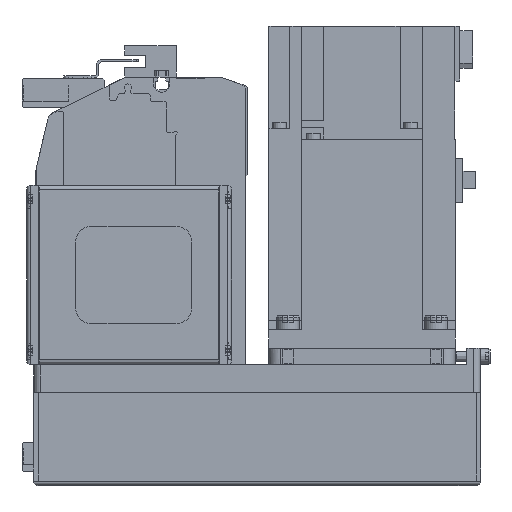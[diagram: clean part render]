
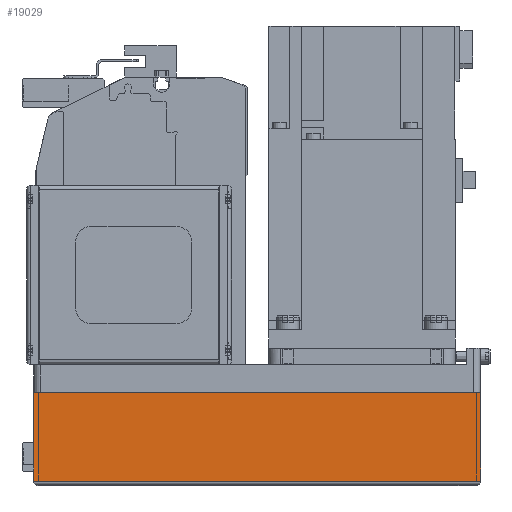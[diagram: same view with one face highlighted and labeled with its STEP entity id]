
A CAD part, left-side view. The second image highlights one B-rep face of the part: STEP entity #19029.
In plain terms, the highlighted planar face has unit normal (-1, 0, 0) as drawn and (0, 1, 0) by its records, which use the part's own axes.
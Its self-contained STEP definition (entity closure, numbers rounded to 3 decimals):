
#2946=ORIENTED_EDGE('',*,*,#7677,.F.);
#2947=ORIENTED_EDGE('',*,*,#7717,.F.);
#2948=ORIENTED_EDGE('',*,*,#7654,.T.);
#2949=ORIENTED_EDGE('',*,*,#7667,.T.);
#7654=EDGE_CURVE('',#10183,#10186,#12138,.T.);
#7667=EDGE_CURVE('',#10186,#10198,#12151,.T.);
#7677=EDGE_CURVE('',#10206,#10198,#12161,.T.);
#7717=EDGE_CURVE('',#10183,#10206,#12179,.T.);
#10183=VERTEX_POINT('',#29194);
#10186=VERTEX_POINT('',#29199);
#10198=VERTEX_POINT('',#29227);
#10206=VERTEX_POINT('',#29247);
#12138=LINE('',#29200,#13834);
#12151=LINE('',#29228,#13847);
#12161=LINE('',#29248,#13857);
#12179=LINE('',#29318,#13875);
#13834=VECTOR('',#23358,1000.);
#13847=VECTOR('',#23377,1000.);
#13857=VECTOR('',#23391,1000.);
#13875=VECTOR('',#23485,1000.);
#15387=EDGE_LOOP('',(#2946,#2947,#2948,#2949));
#16909=FACE_BOUND('',#15387,.T.);
#18264=PLANE('',#20400);
#19029=ADVANCED_FACE('',(#16909),#18264,.T.);
#20400=AXIS2_PLACEMENT_3D('',#29317,#23483,#23484);
#23358=DIRECTION('',(0.,0.,1.));
#23377=DIRECTION('',(1.,0.,0.));
#23391=DIRECTION('',(0.,0.,1.));
#23483=DIRECTION('',(0.,1.,0.));
#23484=DIRECTION('',(0.,0.,1.));
#23485=DIRECTION('',(1.,0.,0.));
#29194=CARTESIAN_POINT('',(-192.,40.,-50.));
#29199=CARTESIAN_POINT('',(-192.,40.,-12.1));
#29200=CARTESIAN_POINT('',(-192.,40.,-50.));
#29227=CARTESIAN_POINT('',(0.,40.,-12.1));
#29228=CARTESIAN_POINT('',(-192.,40.,-12.1));
#29247=CARTESIAN_POINT('',(0.,40.,-50.));
#29248=CARTESIAN_POINT('',(0.,40.,-50.));
#29317=CARTESIAN_POINT('',(-192.,40.,-50.));
#29318=CARTESIAN_POINT('',(-192.,40.,-50.));
